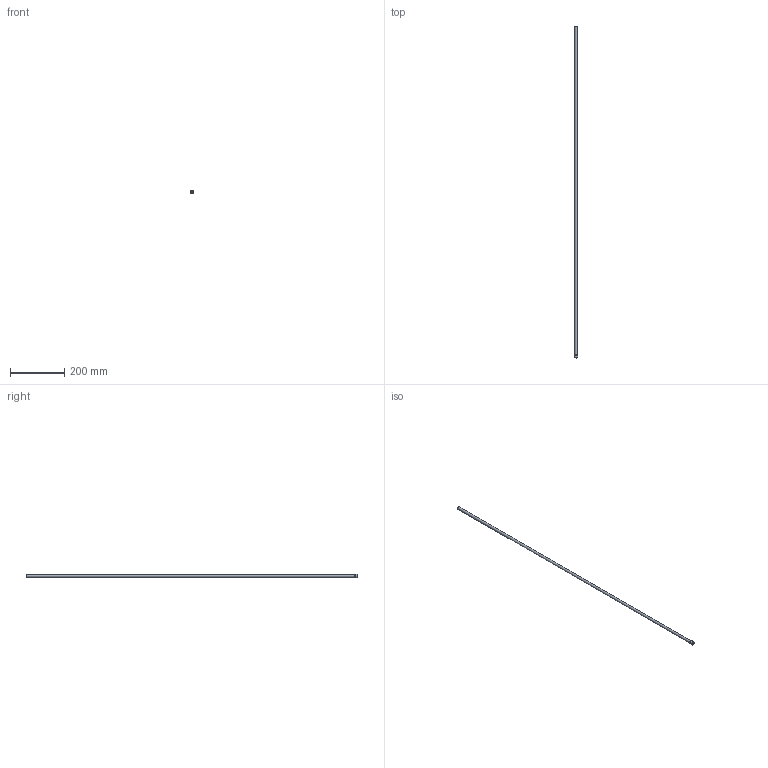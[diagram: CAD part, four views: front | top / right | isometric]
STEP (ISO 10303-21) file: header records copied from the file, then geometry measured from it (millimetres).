
FILE_DESCRIPTION(/* description */ (''),/* implementation_level */ '2;1');
FILE_NAME(/* name */ 'C:/Users/drich/Desktop/JHF375T-48 v1.step',/* time_stamp */ '2020-01-02T20:09:11-06:00',/* author */ (''),/* organization */ (''),/* preprocessor_version */ 'ST-DEVELOPER v18',/* originating_system */ 'Autodesk Translation Framework v8.12.0.6',/* authorisation */ '');
FILE_SCHEMA (('AUTOMOTIVE_DESIGN { 1 0 10303 214 3 1 1 }'));
Length unit declared in the file: inch
Products named in the file (1): JHF375T-48
Bounding box: 12.75 x 1219.2 x 12.75 mm (x, y, z)
Volume: 11615.7 mm3; surface area: 68844.6 mm2
Topology: 1 solids, 1 shells, 10 faces, 24 edges, 18 vertices
Faces by surface type: cylinder 4, plane 4, cone 1, torus 1
Full cylindrical faces by diameter (mm): 8.636 x1, 9.271 x1, 12.598 x1, 12.751 x1
Entity records: 354 total; most frequent: DIRECTION 65, CARTESIAN_POINT 53, ORIENTED_EDGE 48, AXIS2_PLACEMENT_3D 30, EDGE_CURVE 24, CIRCLE 19, VERTEX_POINT 18, EDGE_LOOP 14
